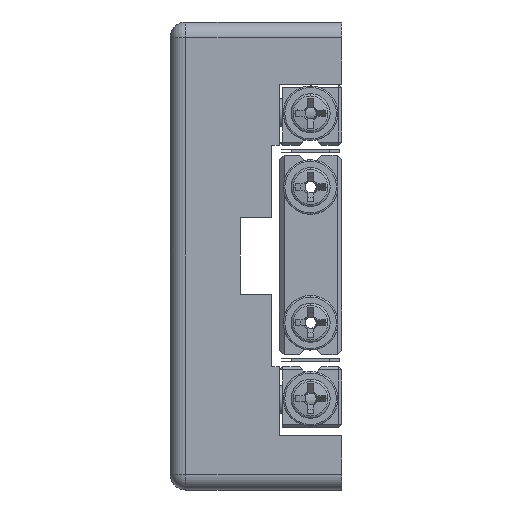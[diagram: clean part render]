
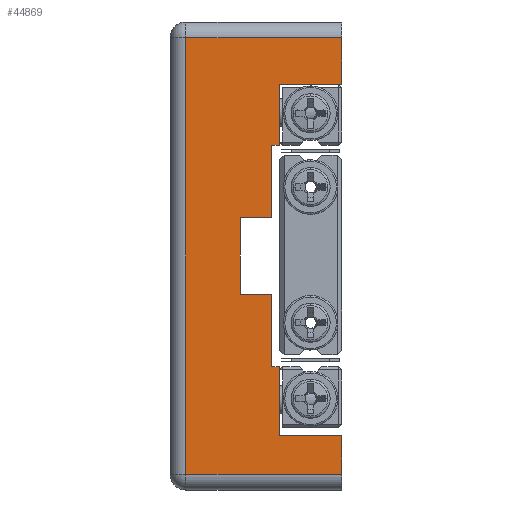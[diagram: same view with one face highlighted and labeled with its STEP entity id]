
A CAD part, left-side view. The second image highlights one B-rep face of the part: STEP entity #44869.
In plain terms, the highlighted planar face has unit normal (-1, 0, 0).
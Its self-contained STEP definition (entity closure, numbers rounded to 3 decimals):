
#903 = LINE ( 'NONE', #36905, #21634 ) ;
#1179 = VECTOR ( 'NONE', #48715, 1000. ) ;
#1456 = CARTESIAN_POINT ( 'NONE',  ( -44.256, -10.017, -7.1 ) ) ;
#1812 = EDGE_CURVE ( 'NONE', #14453, #35010, #23677, .T. ) ;
#1937 = DIRECTION ( 'NONE',  ( 0., 1., 0. ) ) ;
#2249 = LINE ( 'NONE', #18463, #32067 ) ;
#2561 = VERTEX_POINT ( 'NONE', #48712 ) ;
#2814 = VECTOR ( 'NONE', #3396, 1000. ) ;
#3253 = VECTOR ( 'NONE', #21294, 1000. ) ;
#3265 = VECTOR ( 'NONE', #31226, 1000. ) ;
#3332 = ORIENTED_EDGE ( 'NONE', *, *, #3764, .T. ) ;
#3396 = DIRECTION ( 'NONE',  ( 0., 1., 0. ) ) ;
#3764 = EDGE_CURVE ( 'NONE', #17032, #34762, #36198, .T. ) ;
#3834 = CARTESIAN_POINT ( 'NONE',  ( -44.256, -8.017, -2.45 ) ) ;
#5247 = DIRECTION ( 'NONE',  ( 0., -1., 0. ) ) ;
#5782 = LINE ( 'NONE', #1456, #35580 ) ;
#6022 = ORIENTED_EDGE ( 'NONE', *, *, #27330, .F. ) ;
#6851 = VERTEX_POINT ( 'NONE', #33110 ) ;
#6919 = EDGE_CURVE ( 'NONE', #6851, #48611, #22658, .T. ) ;
#6958 = CARTESIAN_POINT ( 'NONE',  ( -44.256, -8.017, 2.45 ) ) ;
#7420 = CARTESIAN_POINT ( 'NONE',  ( -44.256, -4.517, 14. ) ) ;
#8177 = ORIENTED_EDGE ( 'NONE', *, *, #31905, .F. ) ;
#8681 = VERTEX_POINT ( 'NONE', #6958 ) ;
#8831 = EDGE_CURVE ( 'NONE', #48611, #8681, #27375, .T. ) ;
#8927 = ORIENTED_EDGE ( 'NONE', *, *, #46455, .F. ) ;
#9511 = ORIENTED_EDGE ( 'NONE', *, *, #1812, .T. ) ;
#9746 = DIRECTION ( 'NONE',  ( 0., 0., -1. ) ) ;
#9974 = LINE ( 'NONE', #25089, #49763 ) ;
#11856 = VERTEX_POINT ( 'NONE', #46122 ) ;
#12380 = LINE ( 'NONE', #23455, #3265 ) ;
#13619 = LINE ( 'NONE', #29080, #3253 ) ;
#13791 = CARTESIAN_POINT ( 'NONE',  ( -44.256, -10.017, -2.45 ) ) ;
#14453 = VERTEX_POINT ( 'NONE', #29974 ) ;
#14545 = DIRECTION ( 'NONE',  ( 0., 1., 0. ) ) ;
#14641 = VERTEX_POINT ( 'NONE', #39185 ) ;
#14929 = LINE ( 'NONE', #42830, #25258 ) ;
#15503 = CARTESIAN_POINT ( 'NONE',  ( -44.256, -10.017, -2.45 ) ) ;
#15635 = ORIENTED_EDGE ( 'NONE', *, *, #31448, .T. ) ;
#16739 = LINE ( 'NONE', #37694, #17946 ) ;
#16978 = ORIENTED_EDGE ( 'NONE', *, *, #41901, .F. ) ;
#17014 = CARTESIAN_POINT ( 'NONE',  ( -44.256, -14.517, -15. ) ) ;
#17032 = VERTEX_POINT ( 'NONE', #35979 ) ;
#17756 = EDGE_CURVE ( 'NONE', #14641, #34028, #2249, .T. ) ;
#17773 = CARTESIAN_POINT ( 'NONE',  ( -44.256, -10.517, -11.5 ) ) ;
#17946 = VECTOR ( 'NONE', #14545, 1000. ) ;
#18093 = CARTESIAN_POINT ( 'NONE',  ( -44.256, -3.517, -15. ) ) ;
#18463 = CARTESIAN_POINT ( 'NONE',  ( -44.256, -10.517, -7.1 ) ) ;
#19443 = DIRECTION ( 'NONE',  ( 0., -1., 0. ) ) ;
#19974 = DIRECTION ( 'NONE',  ( 0., 0., -1. ) ) ;
#21141 = EDGE_CURVE ( 'NONE', #38721, #14641, #5782, .T. ) ;
#21294 = DIRECTION ( 'NONE',  ( 0., 0., -1. ) ) ;
#21470 = ORIENTED_EDGE ( 'NONE', *, *, #31537, .F. ) ;
#21543 = ORIENTED_EDGE ( 'NONE', *, *, #17756, .F. ) ;
#21634 = VECTOR ( 'NONE', #9746, 1000. ) ;
#21672 = EDGE_CURVE ( 'NONE', #8681, #29857, #14929, .T. ) ;
#21973 = DIRECTION ( 'NONE',  ( 1., 0., 0. ) ) ;
#22213 = EDGE_CURVE ( 'NONE', #42763, #14453, #12380, .T. ) ;
#22336 = CARTESIAN_POINT ( 'NONE',  ( -44.256, -14.517, -11.5 ) ) ;
#22426 = VECTOR ( 'NONE', #37350, 1000. ) ;
#22658 = LINE ( 'NONE', #34264, #41956 ) ;
#23245 = LINE ( 'NONE', #32450, #42496 ) ;
#23332 = ORIENTED_EDGE ( 'NONE', *, *, #21141, .F. ) ;
#23455 = CARTESIAN_POINT ( 'NONE',  ( -44.256, -3.517, -14. ) ) ;
#23677 = LINE ( 'NONE', #17014, #35169 ) ;
#25089 = CARTESIAN_POINT ( 'NONE',  ( -44.256, -3.517, 14. ) ) ;
#25258 = VECTOR ( 'NONE', #19974, 1000. ) ;
#25478 = CARTESIAN_POINT ( 'NONE',  ( -44.256, -10.017, 2.45 ) ) ;
#25913 = AXIS2_PLACEMENT_3D ( 'NONE', #18093, #21973, #48790 ) ;
#25932 = VECTOR ( 'NONE', #37423, 1000. ) ;
#25958 = ORIENTED_EDGE ( 'NONE', *, *, #34894, .T. ) ;
#26094 = DIRECTION ( 'NONE',  ( 0., -1., 0. ) ) ;
#26554 = CARTESIAN_POINT ( 'NONE',  ( -44.256, -10.017, 7.1 ) ) ;
#27330 = EDGE_CURVE ( 'NONE', #29857, #38721, #47049, .T. ) ;
#27375 = LINE ( 'NONE', #41841, #1179 ) ;
#27601 = DIRECTION ( 'NONE',  ( 0., 0., 1. ) ) ;
#27955 = VECTOR ( 'NONE', #19443, 1000. ) ;
#29080 = CARTESIAN_POINT ( 'NONE',  ( -44.256, -10.517, 7.1 ) ) ;
#29857 = VERTEX_POINT ( 'NONE', #3834 ) ;
#29974 = CARTESIAN_POINT ( 'NONE',  ( -44.256, -14.517, -14. ) ) ;
#31226 = DIRECTION ( 'NONE',  ( 0., -1., 0. ) ) ;
#31318 = EDGE_LOOP ( 'NONE', ( #25958, #35947, #9511, #8927, #16978, #21543, #23332, #6022, #45081, #43972, #43118, #38802, #8177, #21470, #3332, #15635 ) ) ;
#31448 = EDGE_CURVE ( 'NONE', #34762, #37534, #9974, .T. ) ;
#31537 = EDGE_CURVE ( 'NONE', #17032, #11856, #16739, .T. ) ;
#31905 = EDGE_CURVE ( 'NONE', #11856, #44685, #13619, .T. ) ;
#32067 = VECTOR ( 'NONE', #26094, 1000. ) ;
#32450 = CARTESIAN_POINT ( 'NONE',  ( -44.256, -10.517, -11.5 ) ) ;
#32755 = LINE ( 'NONE', #17773, #22426 ) ;
#33110 = CARTESIAN_POINT ( 'NONE',  ( -44.256, -10.017, 7.1 ) ) ;
#33786 = LINE ( 'NONE', #26554, #2814 ) ;
#34028 = VERTEX_POINT ( 'NONE', #45449 ) ;
#34085 = EDGE_CURVE ( 'NONE', #44685, #6851, #33786, .T. ) ;
#34264 = CARTESIAN_POINT ( 'NONE',  ( -44.256, -10.017, 2.45 ) ) ;
#34762 = VERTEX_POINT ( 'NONE', #35587 ) ;
#34894 = EDGE_CURVE ( 'NONE', #37534, #42763, #903, .T. ) ;
#35010 = VERTEX_POINT ( 'NONE', #22336 ) ;
#35169 = VECTOR ( 'NONE', #27601, 1000. ) ;
#35580 = VECTOR ( 'NONE', #35944, 1000. ) ;
#35587 = CARTESIAN_POINT ( 'NONE',  ( -44.256, -14.517, 14. ) ) ;
#35944 = DIRECTION ( 'NONE',  ( 0., 0., -1. ) ) ;
#35947 = ORIENTED_EDGE ( 'NONE', *, *, #22213, .T. ) ;
#35979 = CARTESIAN_POINT ( 'NONE',  ( -44.256, -14.517, 11. ) ) ;
#36198 = LINE ( 'NONE', #37835, #25932 ) ;
#36905 = CARTESIAN_POINT ( 'NONE',  ( -44.256, -4.517, -15. ) ) ;
#37350 = DIRECTION ( 'NONE',  ( 0., 0., -1. ) ) ;
#37423 = DIRECTION ( 'NONE',  ( 0., 0., 1. ) ) ;
#37534 = VERTEX_POINT ( 'NONE', #7420 ) ;
#37694 = CARTESIAN_POINT ( 'NONE',  ( -44.256, -10.517, 11. ) ) ;
#37835 = CARTESIAN_POINT ( 'NONE',  ( -44.256, -14.517, -15. ) ) ;
#38721 = VERTEX_POINT ( 'NONE', #13791 ) ;
#38802 = ORIENTED_EDGE ( 'NONE', *, *, #34085, .F. ) ;
#38933 = CARTESIAN_POINT ( 'NONE',  ( -44.256, -10.517, 7.1 ) ) ;
#39043 = FACE_OUTER_BOUND ( 'NONE', #31318, .T. ) ;
#39185 = CARTESIAN_POINT ( 'NONE',  ( -44.256, -10.017, -7.1 ) ) ;
#41841 = CARTESIAN_POINT ( 'NONE',  ( -44.256, -8.017, 2.45 ) ) ;
#41901 = EDGE_CURVE ( 'NONE', #34028, #2561, #32755, .T. ) ;
#41956 = VECTOR ( 'NONE', #42345, 1000. ) ;
#42345 = DIRECTION ( 'NONE',  ( 0., 0., -1. ) ) ;
#42496 = VECTOR ( 'NONE', #5247, 1000. ) ;
#42763 = VERTEX_POINT ( 'NONE', #43616 ) ;
#42830 = CARTESIAN_POINT ( 'NONE',  ( -44.256, -8.017, -2.45 ) ) ;
#43118 = ORIENTED_EDGE ( 'NONE', *, *, #6919, .F. ) ;
#43616 = CARTESIAN_POINT ( 'NONE',  ( -44.256, -4.517, -14. ) ) ;
#43972 = ORIENTED_EDGE ( 'NONE', *, *, #8831, .F. ) ;
#44685 = VERTEX_POINT ( 'NONE', #38933 ) ;
#44808 = PLANE ( 'NONE',  #25913 ) ;
#44869 = ADVANCED_FACE ( 'NONE', ( #39043 ), #44808, .F. ) ;
#45081 = ORIENTED_EDGE ( 'NONE', *, *, #21672, .F. ) ;
#45449 = CARTESIAN_POINT ( 'NONE',  ( -44.256, -10.517, -7.1 ) ) ;
#46122 = CARTESIAN_POINT ( 'NONE',  ( -44.256, -10.517, 11. ) ) ;
#46455 = EDGE_CURVE ( 'NONE', #2561, #35010, #23245, .T. ) ;
#47049 = LINE ( 'NONE', #15503, #27955 ) ;
#48611 = VERTEX_POINT ( 'NONE', #25478 ) ;
#48712 = CARTESIAN_POINT ( 'NONE',  ( -44.256, -10.517, -11.5 ) ) ;
#48715 = DIRECTION ( 'NONE',  ( 0., 1., 0. ) ) ;
#48790 = DIRECTION ( 'NONE',  ( 0., 0., -1. ) ) ;
#49763 = VECTOR ( 'NONE', #1937, 1000. ) ;
